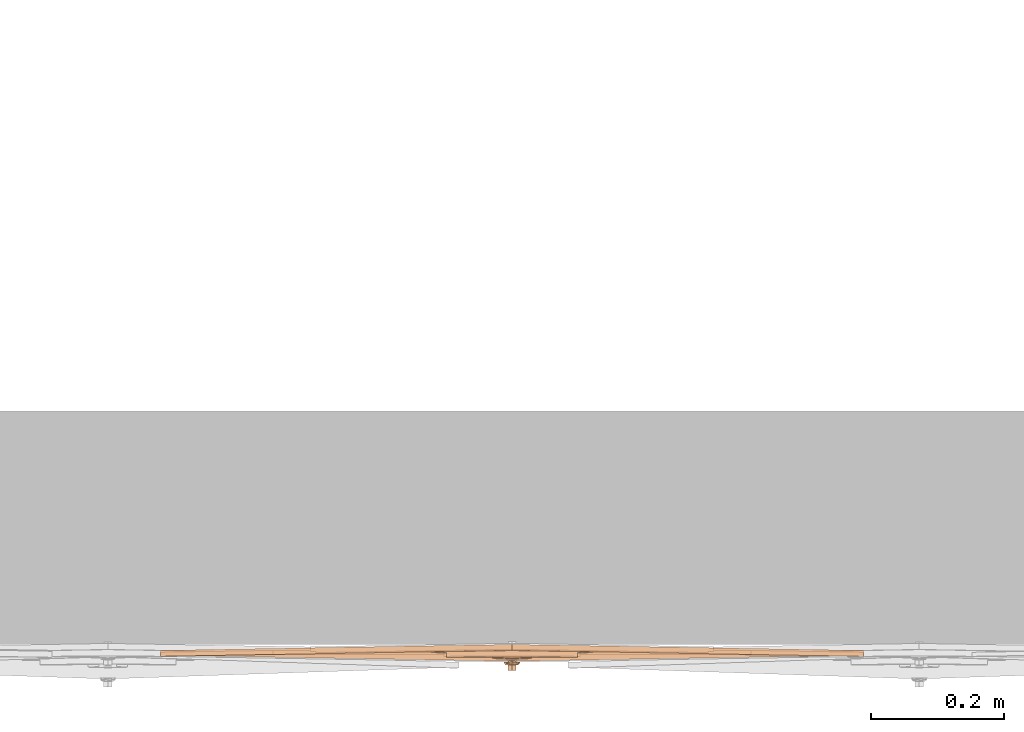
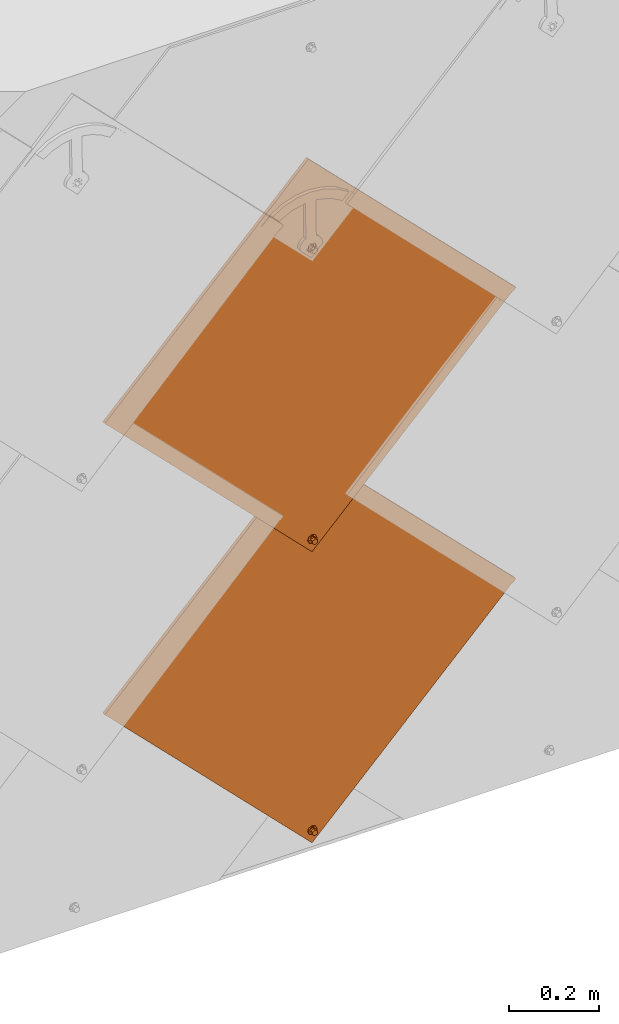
# One storey, part 2 of 133: 2 proxies.
"""IFC2X3 building model written with IfcOpenShell, lengths in millimetres."""

from ifc_helpers import new_model, entity, si_unit, converted_unit, derived_unit, direction, frame, origin, place, context, subcontext, project, spatial, faceted_brep, source, transform, mapped, material, material_list, type_object, type_shapes, element, save


model = new_model("IFC2X3")

# Units and contexts
model_context = context("Model", 3, precision=0.01, world=origin(), true_north=direction((6.12303176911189e-17, 1.0)))
body_context = subcontext(model_context, "Body", "Model", "MODEL_VIEW")
ifc_project = project(units=[si_unit("LENGTHUNIT", "METRE", prefix="MILLI"), si_unit("AREAUNIT", "SQUARE_METRE"), si_unit("VOLUMEUNIT", "CUBIC_METRE"), converted_unit("PLANEANGLEUNIT", "DEGREE", entity("IfcRatioMeasure", 0.0174532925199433), si_unit("PLANEANGLEUNIT", "RADIAN"), dimensions=[0, 0, 0, 0, 0, 0, 0]), si_unit("MASSUNIT", "GRAM", prefix="KILO"), derived_unit("MASSDENSITYUNIT", [(si_unit("MASSUNIT", "GRAM", prefix="KILO"), 1), (si_unit("LENGTHUNIT", "METRE"), -3)]), si_unit("TIMEUNIT", "SECOND"), si_unit("FREQUENCYUNIT", "HERTZ"), si_unit("THERMODYNAMICTEMPERATUREUNIT", "DEGREE_CELSIUS"), derived_unit("THERMALTRANSMITTANCEUNIT", [(si_unit("MASSUNIT", "GRAM", prefix="KILO"), 1), (si_unit("THERMODYNAMICTEMPERATUREUNIT", "KELVIN"), -1), (si_unit("TIMEUNIT", "SECOND"), -3)]), derived_unit("VOLUMETRICFLOWRATEUNIT", [(si_unit("LENGTHUNIT", "METRE"), 3), (si_unit("TIMEUNIT", "SECOND"), -1)]), si_unit("ELECTRICCURRENTUNIT", "AMPERE"), si_unit("ELECTRICVOLTAGEUNIT", "VOLT"), si_unit("POWERUNIT", "WATT"), si_unit("FORCEUNIT", "NEWTON", prefix="KILO"), si_unit("ILLUMINANCEUNIT", "LUX"), si_unit("LUMINOUSFLUXUNIT", "LUMEN"), si_unit("LUMINOUSINTENSITYUNIT", "CANDELA"), derived_unit("USERDEFINED", [(si_unit("MASSUNIT", "GRAM", prefix="KILO"), -1), (si_unit("LENGTHUNIT", "METRE"), -2), (si_unit("TIMEUNIT", "SECOND"), 3), (si_unit("LUMINOUSFLUXUNIT", "LUMEN"), 1)]), derived_unit("LINEARVELOCITYUNIT", [(si_unit("LENGTHUNIT", "METRE"), 1), (si_unit("TIMEUNIT", "SECOND"), -1)]), si_unit("PRESSUREUNIT", "PASCAL"), derived_unit("USERDEFINED", [(si_unit("LENGTHUNIT", "METRE"), -2), (si_unit("MASSUNIT", "GRAM", prefix="KILO"), 1), (si_unit("TIMEUNIT", "SECOND"), -2)])], contexts=[model_context])

# Site, building, storey
site_placement = place(None, origin())
site = spatial("IfcSite", under=ifc_project, at=site_placement, Name="Default", CompositionType="ELEMENT")
building_placement = place(site_placement, origin())
building = spatial("IfcBuilding", under=site, at=building_placement, CompositionType="ELEMENT")
storey_placement = place(building_placement, origin())
storey = spatial("IfcBuildingStorey", under=building, at=storey_placement, Name="Level 1", CompositionType="ELEMENT", Elevation=0.0)

# Proxies
ifc_material_1 = material(Name="Rubber - Sunstyle - Black")
ifc_material_2 = material(Name="Glass - Sunstyle - Tainted Terracotta")
ifc_material_list_1 = material_list([ifc_material_1, ifc_material_2])
ifc_material_list_2 = material_list([ifc_material_1, ifc_material_2])
building_element_proxy_type = type_object("IfcBuildingElementProxyType", Name="Non PV Shingle - Terracotta", PredefinedType="NOTDEFINED", material=ifc_material_list_2)
shared_shape = source(origin(), body_context, "Body", "Brep", [
    faceted_brep([(0.0, -485.159313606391, 4.00636906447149), (-5.77420283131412, -488.492583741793, 4.062193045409), (-5.77420283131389, -488.124274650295, 26.0540623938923), (0.0, -484.791004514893, 25.9982384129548), (-5.77420283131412, -495.159124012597, 4.17384100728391), (-5.7742028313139, -494.790814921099, 26.1657103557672), (0.0, -498.492394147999, 4.2296649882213), (0.0, -498.1240850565, 26.2215343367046), (5.77420283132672, -495.159124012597, 4.17384100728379), (5.77420283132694, -494.790814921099, 26.1657103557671), (5.77420283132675, -488.492583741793, 4.06219304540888), (5.77420283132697, -488.124274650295, 26.0540623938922), (-8.60370416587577, -500.060042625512, 26.2539568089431), (0.0, -503.623313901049, 26.3136327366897), (-12.1674751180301, -491.457544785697, 26.1098863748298), (-8.60370416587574, -482.855046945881, 25.9658159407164), (0.0, -479.291775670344, 25.9061400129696), (8.60370416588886, -482.855046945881, 25.9658159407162), (12.1674751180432, -491.457544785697, 26.1098863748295), (8.60370416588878, -500.060042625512, 26.2539568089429), (-11.3242446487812, -489.162467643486, 28.4227283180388), (-9.75647455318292, -491.386529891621, 30.3502110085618), (0.0, -484.073454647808, 30.9829114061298), (0.0, -482.832957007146, 30.4025647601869), (0.0, -480.675406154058, 29.3931896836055), (0.0, -503.067269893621, 27.5886907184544), (0.0, -502.123693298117, 29.7523951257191), (0.0, -498.67431759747, 31.227439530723), (0.0, -479.804811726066, 27.19910242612), (-6.32324569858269, -495.024101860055, 31.1663074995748), (-6.32324569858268, -487.723670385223, 31.0440434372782), (11.3242446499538, -493.673887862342, 28.4982833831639), (9.84888015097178, -492.460936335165, 30.2713428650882), (6.32324569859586, -487.723670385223, 31.0440434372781), (6.32324569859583, -495.024101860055, 31.1663074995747), (-6.32324569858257, -494.890073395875, 39.1691956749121), (0.0, -498.54028913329, 39.2303277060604), (0.0, -491.239857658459, 39.1080636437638), (-6.32324569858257, -487.589641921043, 39.0469316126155), (6.32324569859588, -494.890073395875, 39.169195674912), (6.32324569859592, -487.589641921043, 39.0469316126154), (0.0, -483.939426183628, 38.9857995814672), (0.0, -491.825853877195, 4.11801702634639)], [[[0, 1, 2, 3]], [[1, 4, 5, 2]], [[4, 6, 7, 5]], [[6, 8, 9, 7]], [[8, 10, 11, 9]], [[10, 0, 3, 11]], [[12, 7, 13]], [[7, 12, 5]], [[14, 5, 12]], [[5, 14, 2]], [[15, 2, 14]], [[3, 2, 15]], [[15, 16, 3]], [[16, 17, 3]], [[11, 3, 17]], [[11, 17, 18]], [[9, 11, 18]], [[18, 19, 9]], [[7, 9, 19]], [[19, 13, 7]], [[20, 14, 12]], [[21, 22, 23, 24]], [[24, 20, 21]], [[25, 20, 12]], [[26, 27, 21]], [[15, 14, 20]], [[12, 13, 25]], [[20, 28, 15]], [[28, 20, 24]], [[21, 27, 29]], [[21, 29, 30]], [[26, 21, 20]], [[20, 25, 26]], [[15, 28, 16]], [[21, 30, 22]], [[31, 18, 17]], [[28, 31, 17]], [[32, 27, 26]], [[26, 31, 32]], [[26, 25, 31]], [[25, 19, 31]], [[17, 16, 28]], [[31, 19, 18]], [[24, 31, 28]], [[33, 34, 32]], [[23, 22, 33]], [[24, 32, 31]], [[27, 32, 34]], [[32, 23, 33]], [[19, 25, 13]], [[32, 24, 23]], [[35, 36, 37]], [[37, 38, 35]], [[36, 39, 37]], [[40, 37, 39]], [[37, 40, 41]], [[37, 41, 38]], [[42, 6, 4]], [[4, 1, 42]], [[1, 0, 42]], [[42, 8, 6]], [[0, 10, 42]], [[8, 42, 10]], [[22, 30, 38, 41]], [[30, 29, 35, 38]], [[29, 27, 36, 35]], [[27, 34, 39, 36]], [[34, 33, 40, 39]], [[33, 22, 41, 40]]]),
    faceted_brep([(0.0, 284.789208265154, 20.3195200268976), (0.0, 289.288576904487, 20.2441667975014), (-8.60370416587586, 288.352479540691, 20.259844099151), (8.60370416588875, 288.352479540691, 20.2598440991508), (6.64022859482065, 293.121777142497, 20.1799702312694), (12.1674751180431, 296.954977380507, 20.1157736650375), (6.64022859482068, 300.788177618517, 20.0515770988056), (8.60370416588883, 305.557475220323, 19.9717032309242), (0.0, 304.621377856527, 19.9873805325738), (0.0, 309.12074649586, 19.9120273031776), (-8.60370416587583, 305.557475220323, 19.9717032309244), (-6.64022859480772, 300.788177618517, 20.0515770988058), (-12.1674751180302, 296.954977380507, 20.1157736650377), (-6.64022859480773, 293.121777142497, 20.1799702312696), (-6.6402282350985, 300.520254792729, 4.05382046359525), (0.0, 304.35345482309, 3.9896239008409), (-6.64022823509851, 292.853854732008, 4.18221358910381), (0.0, 289.020654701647, 4.24641015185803), (6.64022823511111, 292.853854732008, 4.18221358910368), (6.64022823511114, 300.520254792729, 4.05382046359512), (-8.60370416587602, 288.084556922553, 4.26208746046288), (0.0, 284.521285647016, 4.32176338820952), (-12.1674751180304, 296.687054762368, 4.11801702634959), (-8.603704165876, 305.289552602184, 3.97394659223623), (0.0, 308.852823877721, 3.91427066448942), (8.60370416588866, 305.289552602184, 3.97394659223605), (12.167475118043, 296.687054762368, 4.11801702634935), (8.60370416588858, 288.084556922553, 4.26208746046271)], [[[0, 1, 2]], [[1, 0, 3]], [[3, 4, 1]], [[4, 3, 5]], [[6, 4, 5]], [[5, 7, 6]], [[7, 8, 6]], [[8, 7, 9]], [[8, 9, 10]], [[10, 11, 8]], [[12, 11, 10]], [[2, 13, 12]], [[12, 13, 11]], [[13, 2, 1]], [[8, 11, 14, 15]], [[11, 13, 16, 14]], [[13, 1, 17, 16]], [[1, 4, 18, 17]], [[4, 6, 19, 18]], [[6, 8, 15, 19]], [[20, 17, 21]], [[17, 20, 16]], [[22, 16, 20]], [[14, 16, 22]], [[23, 14, 22]], [[15, 14, 23]], [[23, 24, 15]], [[24, 25, 15]], [[19, 15, 25]], [[19, 25, 26]], [[26, 18, 19]], [[26, 27, 18]], [[17, 18, 27]], [[27, 21, 17]], [[24, 23, 10, 9]], [[10, 23, 22, 12]], [[20, 21, 0, 2]], [[20, 2, 12, 22]], [[21, 27, 3, 0]], [[3, 27, 26, 5]], [[25, 24, 9, 7]], [[25, 7, 5, 26]]]),
    faceted_brep([(518.347125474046, -8.50591218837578, 16.4460771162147), (526.831811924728, -0.0212257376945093, 16.3039797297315), (526.831811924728, 0.00389200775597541, 17.8037694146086), (518.347125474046, -8.48079444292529, 17.9458668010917), (0.000322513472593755, 509.695546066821, 7.76749207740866), (-518.346480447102, -8.50591218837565, 16.4460771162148), (-526.831166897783, -0.021225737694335, 16.3039797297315), (0.000322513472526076, 526.662539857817, 7.48333714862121), (0.000322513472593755, 526.687657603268, 8.98312683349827), (-526.831166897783, 0.00389200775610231, 17.8037694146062), (-518.346480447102, -8.48079444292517, 17.9458668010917), (0.000322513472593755, 509.720663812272, 9.26728176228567)], [[[0, 1, 2, 3]], [[1, 0, 4, 5, 6, 7]], [[2, 1, 7, 8]], [[3, 2, 8, 9, 10, 11]], [[0, 3, 11, 4]], [[5, 10, 9, 6]], [[8, 7, 6, 9]], [[4, 11, 10, 5]]]),
    faceted_brep([(0.000322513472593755, 526.662539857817, 7.48333714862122), (-3.10582854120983, 308.054627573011, 11.1444757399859), (0.0, 308.46346032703, 11.1376288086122), (-6.0, 306.855990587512, 11.1645499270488), (3.10582854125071, 308.054627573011, 11.1444757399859), (6.0, 306.855990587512, 11.1645499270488), (8.4852813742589, 304.949234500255, 11.1964833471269), (10.3923048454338, 302.464301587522, 11.2380997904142), (-8.48528137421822, 304.949234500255, 11.1964833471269), (-10.3923048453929, 302.464301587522, 11.2380997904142), (-11.5911099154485, 299.570535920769, 11.2865631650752), (-526.831166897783, -0.0212257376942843, 16.3039797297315), (11.5911099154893, 299.570535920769, 11.2865631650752), (526.831811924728, -0.021225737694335, 16.3039797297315), (-12.0, 296.465142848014, 11.3385707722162), (-11.5911099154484, 293.359749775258, 11.3905783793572), (-10.392304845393, 290.465984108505, 11.4390417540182), (-8.48528137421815, 287.981051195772, 11.4806581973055), (-6.0, 286.074295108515, 11.5125916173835), (-3.10582854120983, 284.875658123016, 11.5326658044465), (-2.07055236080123, -483.623303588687, 24.4031112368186), (-4.0, -484.422394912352, 24.4164940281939), (-5.65685424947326, -485.693565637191, 24.4377829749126), (-6.92820323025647, -487.350187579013, 24.4655272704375), (-7.72740661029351, -489.279364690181, 24.4978361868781), (-8.0, -491.349626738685, 24.5325079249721), (-7.72740661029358, -493.419888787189, 24.5671796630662), (0.000322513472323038, -526.704991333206, 25.1246223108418), (-6.92820323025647, -495.349065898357, 24.5994885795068), (-5.65685424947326, -497.005687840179, 24.6272328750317), (-4.0, -498.276858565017, 24.6485218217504), (-2.0705523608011, -499.075949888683, 24.6619046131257), (0.0, -499.348505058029, 24.6664692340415), (2.07055236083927, -499.075949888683, 24.6619046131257), (4.0, -498.276858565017, 24.6485218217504), (5.65685424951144, -497.005687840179, 24.6272328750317), (6.92820323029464, -495.349065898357, 24.5994885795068), (7.72740661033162, -493.419888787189, 24.5671796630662), (12.0, 296.465142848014, 11.3385707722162), (11.5911099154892, 293.359749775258, 11.3905783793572), (10.3923048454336, 290.465984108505, 11.4390417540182), (8.4852813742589, 287.981051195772, 11.4806581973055), (6.0, 286.074295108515, 11.5125916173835), (3.10582854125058, 284.875658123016, 11.5326658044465), (2.07055236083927, -483.623303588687, 24.4031112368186), (4.0, -484.422394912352, 24.4164940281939), (5.65685424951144, -485.69356563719, 24.4377829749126), (8.0, -491.349626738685, 24.5325079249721), (7.72740661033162, -489.279364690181, 24.4978361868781), (6.92820323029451, -487.350187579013, 24.4655272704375), (0.0, 284.466825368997, 11.5395127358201), (0.0, -483.350748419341, 24.3985466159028), (-526.831166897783, -0.146814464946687, 8.80503130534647), (-6.92820323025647, -487.475776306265, 16.9665788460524), (-7.72740661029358, -489.404953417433, 16.9988877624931), (-5.65685424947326, -485.819154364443, 16.9388345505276), (-8.0, -491.475215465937, 17.0335595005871), (-7.72740661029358, -493.545477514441, 17.0682312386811), (0.000322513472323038, -526.830580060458, 17.6256738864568), (-4.0, -484.547983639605, 16.9175456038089), (-2.07055236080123, -483.748892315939, 16.9041628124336), (-3.10582854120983, 284.750069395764, 4.03371738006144), (-6.0, 285.948706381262, 4.01364319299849), (-8.48528137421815, 287.85546246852, 3.98170977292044), (-10.392304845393, 290.340395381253, 3.94009332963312), (-11.5911099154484, 293.234161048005, 3.89162995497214), (-12.0, 296.339554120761, 3.83962234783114), (-11.5911099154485, 299.444947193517, 3.78761474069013), (0.000322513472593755, 526.536951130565, -0.0156112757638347), (-10.3923048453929, 302.338712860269, 3.73915136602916), (-8.48528137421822, 304.823645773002, 3.69753492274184), (-6.0, 306.73040186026, 3.66560150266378), (-3.10582854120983, 307.929038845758, 3.64552731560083), (0.0, 308.337871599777, 3.63868038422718), (3.10582854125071, 307.929038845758, 3.64552731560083), (6.0, 306.73040186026, 3.66560150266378), (8.4852813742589, 304.823645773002, 3.69753492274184), (10.3923048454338, 302.338712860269, 3.73915136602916), (11.5911099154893, 299.444947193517, 3.78761474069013), (526.831811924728, -0.146814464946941, 8.80503130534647), (7.72740661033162, -493.545477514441, 17.0682312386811), (8.0, -491.475215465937, 17.0335595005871), (7.72740661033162, -489.404953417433, 16.9988877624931), (6.92820323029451, -487.475776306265, 16.9665788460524), (5.65685424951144, -485.819154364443, 16.9388345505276), (4.0, -484.547983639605, 16.9175456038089), (2.07055236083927, -483.748892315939, 16.9041628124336), (3.10582854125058, 284.750069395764, 4.03371738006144), (6.0, 285.948706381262, 4.01364319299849), (12.0, 296.339554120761, 3.83962234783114), (11.5911099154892, 293.234161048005, 3.89162995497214), (10.3923048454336, 290.340395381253, 3.94009332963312), (8.4852813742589, 287.85546246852, 3.98170977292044), (0.0, 284.341236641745, 4.04056431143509), (0.0, -483.476337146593, 16.8995981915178), (-6.92820323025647, -495.474654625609, 17.1005401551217), (-5.65685424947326, -497.131276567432, 17.1282844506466), (-4.0, -498.40244729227, 17.1495733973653), (-2.0705523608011, -499.201538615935, 17.1629561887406), (0.0, -499.474093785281, 17.1675208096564), (2.07055236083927, -499.201538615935, 17.1629561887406), (4.0, -498.40244729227, 17.1495733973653), (5.65685424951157, -497.131276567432, 17.1282844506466), (6.92820323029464, -495.474654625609, 17.1005401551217)], [[[0, 1, 2]], [[1, 0, 3]], [[0, 2, 4]], [[4, 5, 0]], [[5, 6, 0]], [[0, 6, 7]], [[8, 3, 0]], [[9, 8, 0]], [[9, 0, 10]], [[10, 0, 11]], [[12, 0, 7]], [[12, 13, 0]], [[11, 14, 10]], [[14, 11, 15]], [[16, 15, 11]], [[16, 11, 17]], [[18, 17, 11]], [[11, 19, 18]], [[19, 11, 20]], [[21, 20, 11]], [[11, 22, 21]], [[22, 11, 23]], [[23, 11, 24]], [[25, 24, 11]], [[25, 11, 26]], [[26, 11, 27]], [[27, 28, 26]], [[29, 28, 27]], [[30, 29, 27]], [[31, 30, 27]], [[27, 32, 31]], [[32, 27, 33]], [[34, 33, 27]], [[34, 27, 35]], [[36, 35, 27]], [[37, 36, 27]], [[37, 27, 13]], [[12, 38, 13]], [[39, 13, 38]], [[13, 39, 40]], [[13, 40, 41]], [[41, 42, 13]], [[42, 43, 13]], [[13, 43, 44]], [[45, 13, 44]], [[46, 13, 45]], [[47, 37, 13]], [[48, 47, 13]], [[49, 48, 13]], [[46, 49, 13]], [[20, 50, 19]], [[51, 50, 20]], [[44, 50, 51]], [[43, 50, 44]], [[52, 53, 54]], [[53, 52, 55]], [[52, 54, 56]], [[56, 57, 52]], [[52, 57, 58]], [[59, 55, 52]], [[60, 59, 52]], [[60, 52, 61]], [[61, 52, 62]], [[63, 62, 52]], [[64, 63, 52]], [[65, 64, 52]], [[66, 65, 52]], [[66, 52, 67]], [[52, 68, 67]], [[69, 67, 68]], [[70, 69, 68]], [[68, 71, 70]], [[71, 68, 72]], [[72, 68, 73]], [[74, 73, 68]], [[74, 68, 75]], [[76, 75, 68]], [[68, 77, 76]], [[77, 68, 78]], [[68, 79, 78]], [[58, 80, 79]], [[81, 79, 80]], [[81, 82, 79]], [[82, 83, 79]], [[84, 79, 83]], [[79, 84, 85]], [[85, 86, 79]], [[87, 79, 86]], [[87, 88, 79]], [[89, 78, 79]], [[79, 90, 89]], [[90, 79, 91]], [[92, 91, 79]], [[92, 79, 88]], [[93, 60, 61]], [[93, 86, 94]], [[94, 60, 93]], [[87, 86, 93]], [[58, 57, 95]], [[96, 58, 95]], [[96, 97, 58]], [[97, 98, 58]], [[99, 58, 98]], [[58, 99, 100]], [[58, 100, 101]], [[101, 102, 58]], [[102, 103, 58]], [[103, 80, 58]], [[11, 0, 68, 52]], [[27, 11, 52, 58]], [[13, 27, 58, 79]], [[0, 13, 79, 68]], [[25, 56, 54, 24]], [[24, 54, 53, 23]], [[21, 22, 55, 59]], [[55, 22, 23, 53]], [[20, 21, 59, 60]], [[20, 60, 94, 51]], [[51, 94, 86, 44]], [[44, 86, 85, 45]], [[49, 46, 84, 83]], [[84, 46, 45, 85]], [[48, 49, 83, 82]], [[48, 82, 81, 47]], [[47, 81, 80, 37]], [[37, 80, 103, 36]], [[34, 35, 102, 101]], [[102, 35, 36, 103]], [[33, 34, 101, 100]], [[33, 100, 99, 32]], [[32, 99, 98, 31]], [[31, 98, 97, 30]], [[28, 29, 96, 95]], [[96, 29, 30, 97]], [[26, 28, 95, 57]], [[26, 57, 56, 25]], [[14, 66, 67, 10]], [[10, 67, 69, 9]], [[3, 8, 70, 71]], [[70, 8, 9, 69]], [[1, 3, 71, 72]], [[1, 72, 73, 2]], [[2, 73, 74, 4]], [[4, 74, 75, 5]], [[7, 6, 76, 77]], [[76, 6, 5, 75]], [[12, 7, 77, 78]], [[12, 78, 89, 38]], [[38, 89, 90, 39]], [[39, 90, 91, 40]], [[42, 41, 92, 88]], [[40, 91, 92, 41]], [[87, 43, 42, 88]], [[43, 87, 93, 50]], [[50, 93, 61, 19]], [[19, 61, 62, 18]], [[16, 17, 63, 64]], [[63, 17, 18, 62]], [[15, 16, 64, 65]], [[15, 65, 66, 14]]]),
    faceted_brep([(-103.640919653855, 371.082989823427, 12.5892580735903), (-81.5635806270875, 393.15723338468, 12.2195694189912), (-98.1147183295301, 409.705441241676, 11.9424281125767), (-106.2656930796, 403.014562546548, 12.0544836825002), (-113.962762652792, 395.806279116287, 12.1752044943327), (-121.16572423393, 388.605337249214, 12.295802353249), (121.446435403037, 388.886009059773, 12.2911017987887), (110.715435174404, 399.614000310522, 12.1114346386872), (104.744439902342, 405.287275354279, 12.0164213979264), (98.4920378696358, 410.648923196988, 11.9266271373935), (98.074476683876, 410.231479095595, 11.933618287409), (98.234751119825, 410.108922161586, 11.9356708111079), (98.3948723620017, 409.986165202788, 11.9377266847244), (81.6917048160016, 393.285339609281, 12.2174239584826), (103.769043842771, 371.211096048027, 12.5871126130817), (-23.2046504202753, 315.000563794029, 21.029550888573), (-8.48528137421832, 305.451589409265, 21.1894724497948), (-18.7041061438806, 319.633569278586, 20.951959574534), (-10.392304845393, 302.966656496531, 21.2310888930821), (-26.5842195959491, 309.496413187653, 21.1217317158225), (-11.5911099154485, 300.072890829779, 21.2795522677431), (-28.6795527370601, 303.387013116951, 21.2240489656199), (-12.0, 296.967497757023, 21.3315598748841), (-29.3894280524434, 296.967497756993, 21.3315598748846), (-11.5911099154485, 293.862104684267, 21.3835674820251), (-10.392304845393, 290.968339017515, 21.4320308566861), (-8.48528137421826, 288.483406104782, 21.4736472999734), (0.0, 267.58219039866, 21.8236906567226), (-6.0, 286.576650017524, 21.5055807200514), (-3.10582854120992, 285.378013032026, 21.5256549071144), (0.0, 284.969180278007, 21.532501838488), (3.10582854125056, 285.378013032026, 21.5256549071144), (6.0, 286.576650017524, 21.5055807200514), (8.48528137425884, 288.483406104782, 21.4736472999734), (29.389428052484, 296.967497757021, 21.3315598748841), (10.3923048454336, 290.968339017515, 21.4320308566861), (11.5911099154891, 293.862104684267, 21.3835674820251), (12.0, 296.967497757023, 21.3315598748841), (28.6795527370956, 303.387013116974, 21.2240489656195), (11.5911099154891, 300.072890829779, 21.2795522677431), (26.5842195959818, 309.49641318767, 21.1217317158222), (10.3923048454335, 302.966656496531, 21.2310888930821), (23.2046504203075, 315.000563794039, 21.0295508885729), (8.48528137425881, 305.451589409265, 21.1894724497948), (18.7041061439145, 319.633569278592, 20.9519595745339), (6.0, 307.358345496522, 21.1575390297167), (13.3000000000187, 323.171617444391, 20.8927060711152), (3.10582854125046, 308.55698248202, 21.1374648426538), (0.0, 308.965815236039, 21.1306179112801), (-13.2999999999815, 323.171617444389, 20.8927060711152), (-13.2999999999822, 418.050603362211, 19.3037191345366), (13.3000000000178, 418.050603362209, 19.3037191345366), (0.0, 443.522216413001, 18.8771329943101), (34.9852699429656, 439.689674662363, 18.9413185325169), (48.8881158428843, 409.917561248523, 19.4399273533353), (68.3106161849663, 428.373889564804, 19.1308297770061), (81.1868897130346, 392.906184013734, 19.7248255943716), (98.3948723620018, 410.11175393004, 19.4366751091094), (-34.9852699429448, 439.689674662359, 18.941318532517), (-48.8881158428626, 409.917561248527, 19.4399273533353), (-68.3106161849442, 428.373889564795, 19.1308297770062), (-81.1868897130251, 392.906184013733, 19.7248255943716), (-98.3948723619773, 410.111753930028, 19.4366751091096), (-6.0, 307.358345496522, 21.1575390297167), (-3.10582854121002, 308.55698248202, 21.1374648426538), (0.0, 267.414738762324, 11.8250927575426), (0.0, 284.80172864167, 11.533903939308), (3.10582854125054, 285.210561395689, 11.5270570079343), (-3.10582854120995, 285.210561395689, 11.5270570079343), (6.0, 286.409198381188, 11.5069828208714), (8.48528137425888, 288.315954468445, 11.4750494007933), (29.389428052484, 296.800046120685, 11.332961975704), (-6.0, 286.409198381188, 11.5069828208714), (-8.48528137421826, 288.315954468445, 11.4750494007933), (-29.3894280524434, 296.800046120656, 11.3329619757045), (-10.392304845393, 290.800887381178, 11.433432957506), (-11.5911099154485, 293.694653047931, 11.384969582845), (-12.0, 296.800046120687, 11.332961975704), (-28.6795527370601, 303.219561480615, 11.2254510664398), (-11.5911099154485, 299.905439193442, 11.280954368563), (-26.5842195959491, 309.328961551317, 11.1231338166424), (-10.392304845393, 302.799204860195, 11.232490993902), (-23.2046504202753, 314.833112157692, 11.030952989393), (-8.48528137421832, 305.284137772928, 11.1908745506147), (-18.7041061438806, 319.466117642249, 10.9533616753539), (-6.0, 307.190893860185, 11.1589411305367), (-13.2999999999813, 323.004165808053, 10.8941081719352), (-3.10582854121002, 308.389530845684, 11.1388669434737), (0.0, 308.798363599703, 11.1320200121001), (13.3000000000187, 323.004165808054, 10.8941081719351), (13.3000000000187, 417.883151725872, 9.30512123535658), (-13.2999999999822, 417.883151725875, 9.30512123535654), (-0.199443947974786, 443.35464169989, 8.87853715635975), (-35.1150635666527, 439.493384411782, 8.94320360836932), (-48.8881158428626, 409.75010961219, 9.44132945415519), (-68.3708539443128, 428.178324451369, 9.13270270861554), (-81.5627248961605, 393.11622608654, 9.71990561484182), (-81.1868897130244, 392.738732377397, 9.72622769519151), (-98.1143736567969, 409.663842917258, 9.44277420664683), (-106.2656930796, 402.972699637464, 9.5548342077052), (-103.640919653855, 371.041126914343, 10.0896085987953), (-113.962762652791, 395.764416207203, 9.67555501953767), (-121.16572423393, 388.56347434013, 9.79615287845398), (-98.3948723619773, 409.944302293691, 9.43807720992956), (34.7256001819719, 439.579582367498, 8.94176000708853), (48.8881158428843, 409.750109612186, 9.44132945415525), (68.0092206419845, 428.346649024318, 9.12988369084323), (81.6917048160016, 393.243476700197, 9.71777448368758), (98.0744766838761, 410.189616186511, 9.43396881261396), (104.744439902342, 405.245412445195, 9.51677192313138), (98.4920378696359, 410.607060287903, 9.42697766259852), (110.715435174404, 399.572137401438, 9.61178516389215), (103.769043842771, 371.169233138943, 10.0874631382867), (121.446435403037, 388.844146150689, 9.7914523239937), (81.1868897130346, 392.738732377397, 9.7262276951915), (3.10582854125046, 308.389530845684, 11.1388669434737), (6.0, 307.190893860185, 11.1589411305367), (18.7041061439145, 319.466117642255, 10.9533616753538), (8.48528137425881, 305.284137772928, 11.1908745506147), (23.2046504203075, 314.833112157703, 11.0309529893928), (10.3923048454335, 302.799204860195, 11.232490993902), (26.5842195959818, 309.328961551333, 11.1231338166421), (11.5911099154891, 299.905439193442, 11.280954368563), (28.6795527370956, 303.219561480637, 11.2254510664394), (12.0, 296.800046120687, 11.332961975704), (10.3923048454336, 290.800887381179, 11.433432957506), (11.5911099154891, 293.694653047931, 11.384969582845)], [[[0, 1, 2, 3, 4, 5]], [[6, 7, 8, 9, 10, 11, 12, 13, 14]], [[15, 16, 17]], [[18, 16, 15]], [[19, 18, 15]], [[20, 18, 19]], [[19, 21, 20]], [[21, 22, 20]], [[22, 21, 23]], [[24, 22, 23]], [[25, 24, 23]], [[25, 23, 26]], [[23, 27, 26]], [[28, 26, 27]], [[28, 27, 29]], [[27, 30, 29]], [[30, 27, 31]], [[31, 27, 32]], [[33, 32, 27]], [[33, 27, 34]], [[34, 35, 33]], [[36, 35, 34]], [[37, 36, 34]], [[34, 38, 37]], [[39, 37, 38]], [[38, 40, 39]], [[40, 41, 39]], [[41, 40, 42]], [[43, 41, 42]], [[42, 44, 43]], [[45, 43, 44]], [[44, 46, 45]], [[45, 46, 47]], [[47, 46, 48]], [[46, 49, 48]], [[46, 50, 49]], [[46, 51, 50]], [[52, 50, 51]], [[51, 53, 52]], [[51, 54, 53]], [[53, 54, 55]], [[54, 56, 55]], [[56, 57, 55]], [[58, 50, 52]], [[50, 58, 59]], [[60, 59, 58]], [[60, 61, 59]], [[61, 60, 62]], [[63, 49, 17]], [[63, 64, 49]], [[49, 64, 48]], [[63, 17, 16]], [[65, 66, 67]], [[66, 65, 68]], [[65, 67, 69]], [[69, 70, 65]], [[65, 70, 71]], [[72, 68, 65]], [[72, 65, 73]], [[73, 65, 74]], [[74, 75, 73]], [[75, 74, 76]], [[76, 74, 77]], [[78, 77, 74]], [[79, 77, 78]], [[78, 80, 79]], [[79, 80, 81]], [[80, 82, 81]], [[83, 81, 82]], [[84, 83, 82]], [[84, 85, 83]], [[86, 85, 84]], [[86, 87, 85]], [[88, 87, 86]], [[89, 88, 86]], [[89, 86, 90]], [[91, 90, 86]], [[91, 92, 90]], [[92, 91, 93]], [[94, 93, 91]], [[93, 94, 95]], [[94, 96, 95]], [[94, 97, 96]], [[98, 95, 96]], [[99, 98, 96]], [[96, 100, 99]], [[99, 100, 101]], [[102, 101, 100]], [[95, 98, 103]], [[104, 90, 92]], [[90, 104, 105]], [[106, 105, 104]], [[107, 105, 106]], [[106, 108, 107]], [[108, 109, 107]], [[109, 108, 110]], [[111, 107, 109]], [[111, 112, 107]], [[113, 112, 111]], [[107, 114, 105]], [[115, 88, 89]], [[116, 115, 89]], [[116, 89, 117]], [[117, 118, 116]], [[119, 118, 117]], [[119, 120, 118]], [[119, 121, 120]], [[121, 122, 120]], [[122, 121, 123]], [[71, 124, 123]], [[124, 122, 123]], [[71, 70, 125]], [[125, 126, 71]], [[126, 124, 71]], [[49, 50, 91, 86]], [[17, 49, 86, 84]], [[15, 17, 84, 82]], [[82, 80, 19, 15]], [[21, 19, 80, 78]], [[23, 21, 78, 74]], [[27, 23, 74, 65]], [[0, 5, 102, 100]], [[34, 27, 65, 71]], [[6, 14, 112, 113]], [[38, 34, 71, 123]], [[40, 38, 123, 121]], [[121, 119, 42, 40]], [[44, 42, 119, 117]], [[46, 44, 117, 89]], [[51, 46, 89, 90]], [[11, 10, 57]], [[108, 106, 10]], [[10, 106, 55]], [[12, 11, 57]], [[57, 10, 55]], [[106, 53, 55]], [[106, 104, 53]], [[52, 104, 92]], [[92, 93, 58]], [[95, 60, 93]], [[52, 92, 58]], [[95, 62, 60]], [[60, 58, 93]], [[62, 95, 103]], [[104, 52, 53]], [[22, 77, 79, 20]], [[20, 79, 81, 18]], [[63, 16, 83, 85]], [[81, 83, 16, 18]], [[64, 63, 85, 87]], [[88, 48, 64, 87]], [[47, 115, 116, 45]], [[45, 116, 118, 43]], [[39, 41, 120, 122]], [[118, 120, 41, 43]], [[37, 39, 122, 124]], [[47, 48, 88, 115]], [[37, 124, 126, 36]], [[36, 126, 125, 35]], [[32, 33, 70, 69]], [[125, 70, 33, 35]], [[31, 32, 69, 67]], [[66, 30, 31, 67]], [[29, 68, 72, 28]], [[28, 72, 73, 26]], [[24, 25, 75, 76]], [[73, 75, 25, 26]], [[22, 24, 76, 77]], [[29, 30, 66, 68]], [[7, 6, 113, 111]], [[7, 111, 109, 8]], [[109, 110, 9, 8]], [[14, 13, 107, 112]], [[1, 0, 100, 96]], [[2, 98, 3]], [[3, 98, 99]], [[99, 101, 4, 3]], [[5, 4, 101, 102]], [[97, 94, 59, 61]], [[91, 50, 59, 94]], [[90, 105, 54, 51]], [[114, 56, 54, 105]], [[10, 9, 110, 108]], [[62, 2, 1]], [[2, 62, 103]], [[61, 62, 1, 97]], [[103, 98, 2]], [[96, 97, 1]], [[57, 56, 114, 107, 13, 12]]]),
])
type_shapes(building_element_proxy_type, [shared_shape])
proxy_1_placement = place(storey_placement, frame((-13091.5238229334, -13191.873651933, 1581.22675427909), z_axis=(0.0, -1.0, 0.0), x_axis=(1.0, 0.0, 0.0)))
element("IfcBuildingElementProxy", 1, at=proxy_1_placement, inside=storey, type_object=building_element_proxy_type, material=ifc_material_list_1, Name="Roofing_Panels_SunStyle_Tile_Non-PV-Shingle:Non PV Shingle - Terracotta", ObjectType="Roofing_Panels_SunStyle_Tile_Non-PV-Shingle:Non PV Shingle - Terracotta", context=body_context, shape_type="MappedRepresentation", body=[
    mapped(shared_shape, transform((0.0, 0.0, 0.0), scale=1.0)),
])
ifc_material_list_3 = material_list([ifc_material_1, ifc_material_2])
proxy_2_placement = place(storey_placement, frame((-13091.5238229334, -13191.873651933, 792.814232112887), z_axis=(0.0, -1.0, 0.0), x_axis=(1.0, 0.0, 0.0)))
element("IfcBuildingElementProxy", 2, at=proxy_2_placement, inside=storey, type_object=building_element_proxy_type, material=ifc_material_list_3, Name="Roofing_Panels_SunStyle_Tile_Non-PV-Shingle:Non PV Shingle - Terracotta", ObjectType="Roofing_Panels_SunStyle_Tile_Non-PV-Shingle:Non PV Shingle - Terracotta", context=body_context, shape_type="MappedRepresentation", body=[
    mapped(shared_shape, transform((0.0, 0.0, 0.0), scale=1.0)),
])

save(model, "model.ifc")
